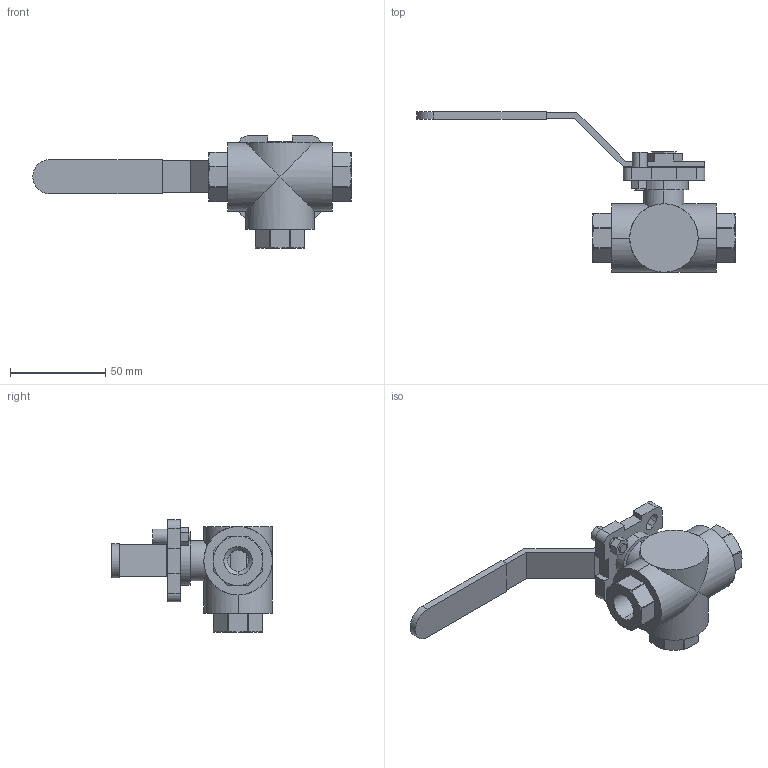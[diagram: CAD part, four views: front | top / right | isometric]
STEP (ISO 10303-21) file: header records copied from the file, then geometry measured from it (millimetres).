
FILE_DESCRIPTION (( 'STEP AP203' ), '1' );
FILE_NAME ('04.622I010IFVPB0.STEP', '2018-10-05T12:12:56', ( '' ), ( '' ), 'SwSTEP 2.0', 'SolidWorks 2014', '' );
FILE_SCHEMA (( 'CONFIG_CONTROL_DESIGN' ));
Length unit declared in the file: millimetre
Products named in the file (1): 04.622I010IFVPB0
Bounding box: 167.5 x 84.5 x 59 mm (x, y, z)
Volume: 104417 mm3; surface area: 27952.8 mm2
Topology: 1 solids, 1 shells, 213 faces, 545 edges, 347 vertices
Faces by surface type: plane 108, cylinder 75, cone 30
Entity records: 6859 total; most frequent: CARTESIAN_POINT 1618, ORIENTED_EDGE 1090, DIRECTION 1058, EDGE_CURVE 545, AXIS2_PLACEMENT_3D 373, VERTEX_POINT 347, LINE 312, VECTOR 312
